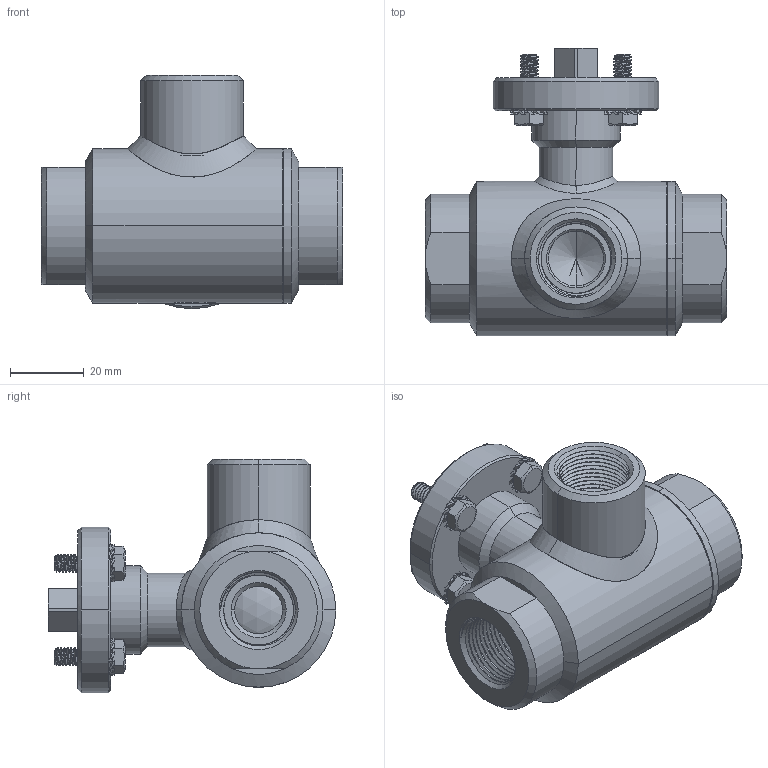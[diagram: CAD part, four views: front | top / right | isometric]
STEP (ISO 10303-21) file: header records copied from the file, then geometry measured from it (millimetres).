
FILE_DESCRIPTION((''),'2;1');
FILE_NAME('35300161410','2016-07-22T',('UFFICIO TECNICO'),('CDM Tecnoconsulting'),'CREO PARAMETRIC BY PTC INC, 2015290','CREO PARAMETRIC BY PTC INC, 2015290','');
FILE_SCHEMA(('CONFIG_CONTROL_DESIGN'));
Length unit declared in the file: millimetre
Products named in the file (1): 35300161410
Bounding box: 82 x 78.25 x 63.5 mm (x, y, z)
Surface area: 44960.8 mm2 (no closed solid volume)
Topology: 0 solids, 37 shells, 1134 faces, 3471 edges, 2317 vertices
Faces by surface type: cylinder 387, plane 362, cone 180, bspline 106, torus 82, extrusion 15, sphere 2
Entity records: 79166 total; most frequent: CARTESIAN_POINT 50343, ORIENTED_EDGE 6198, DIRECTION 5016, EDGE_CURVE 3463, VERTEX_POINT 2317, AXIS2_PLACEMENT_3D 1896, B_SPLINE_CURVE_WITH_KNOTS 1386, VECTOR 1224
